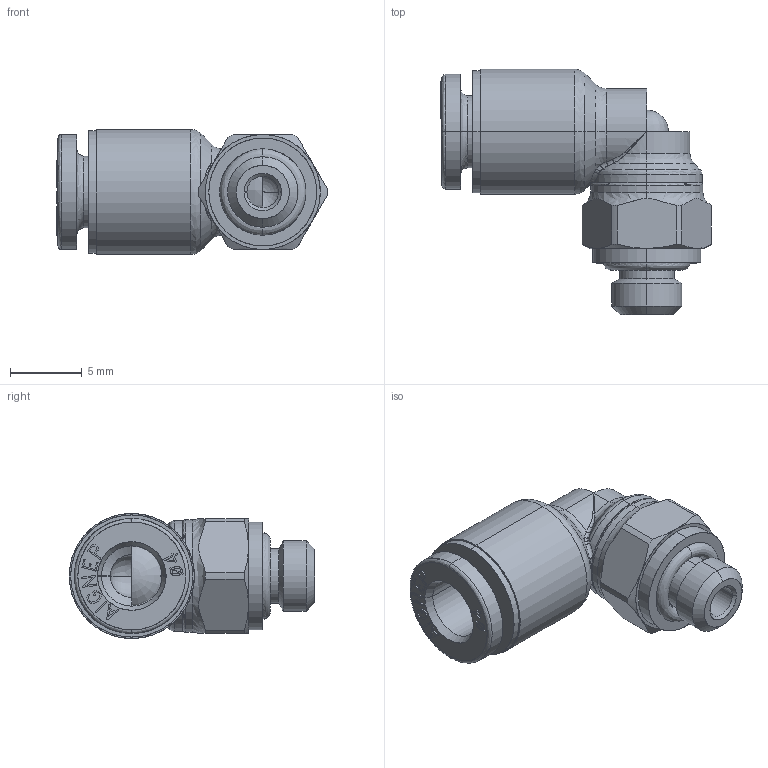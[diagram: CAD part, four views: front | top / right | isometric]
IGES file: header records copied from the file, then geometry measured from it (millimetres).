
Start section: SolidWorks IGES file using analytic representation for surfaces
Global section: file name: U:\PERSONALE AIGNEP\Roberio Zoli\5611500005.IGS; native system: SolidWorks 2016; preprocessor: SolidWorks 2016; author: cad07; date: 180315.145449; units: millimetre
Bounding box: 18.85 x 17.08 x 8.7 mm (x, y, z)
Surface area: 1078.2 mm2 (no closed solid volume)
Topology: 0 solids, 0 shells, 312 faces, 2621 edges, 2616 vertices
Faces by surface type: bspline 247, revolution 65
